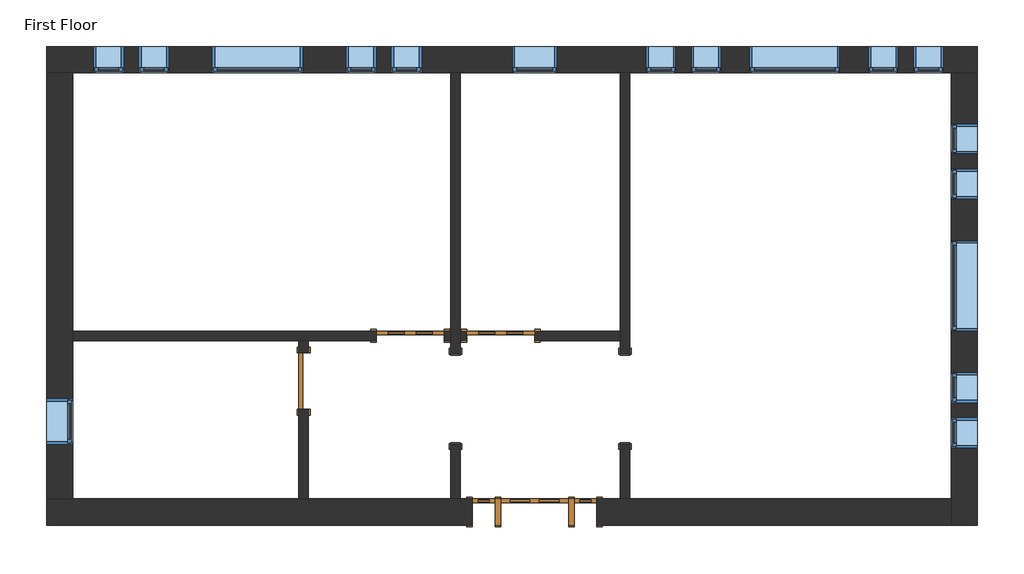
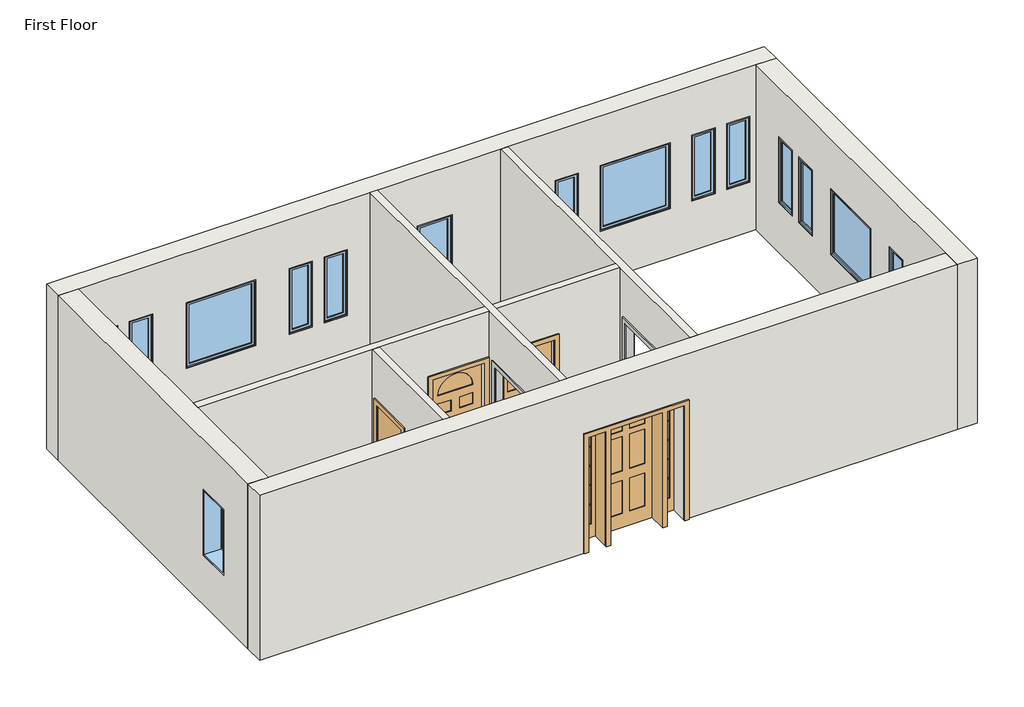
# One storey: 17 windows, 9 walls, 4 doors, 2 proxies.
"""IFC4 building model written with IfcOpenShell, lengths in millimetres."""

from ifc_helpers import new_model, si_unit, frame, origin, place, context, project, spatial, polyline, outline, extrude, faceted_brep, transform, mapped, element, save
from components import proxy_f44482cc, door_829da954, door_2e3b4da2, door_4d6c7550, door_dba5aa2e, window_da97879f, window_d61ef850, window_60baf983, window_6eb97611

model = new_model("IFC4")

# Units and contexts
model_context = context("Model", 3, world=origin())
ifc_project = project(units=[si_unit("LENGTHUNIT", "METRE", prefix="MILLI")], contexts=[model_context])

# Site, building, storey
site = spatial("IfcSite", under=ifc_project)
building = spatial("IfcBuilding", under=site)
storey = spatial("IfcBuildingStorey", under=building, Name="First Floor", Elevation=0.0)

# Proxies
placement = place(None, origin())
proxy_shape = proxy_f44482cc(model_context)
element("IfcBuildingElementProxy", 1, Name="Opening-Cased : 48\" x 84\"", ObjectType="Opening-Cased : 48\" x 84\"", at=placement, inside=storey, context=model_context, shape_type="MappedRepresentation", body=[
    mapped(proxy_shape, transform((-3773.4589563, 5882.4203434, 0.0), x_axis=(0.0, 1.0, 0.0), y_axis=(-1.0, 0.0, 0.0), z_axis=(0.0, 0.0, 1.0))),
])
element("IfcBuildingElementProxy", 2, Name="Opening-Cased : 48\" x 84\"", ObjectType="Opening-Cased : 48\" x 84\"", at=placement, inside=storey, context=model_context, shape_type="MappedRepresentation", body=[
    mapped(proxy_shape, transform((-6059.4589563, 5866.04303, 0.0), x_axis=(0.0, -1.0, 0.0), y_axis=(1.0, 0.0, 0.0), z_axis=(0.0, 0.0, 1.0))),
])

# Doors
door_shape = door_829da954(model_context)
element("IfcDoor", 3, ObjectType="Single-Decorative 2 : 36\" x 84\"", at=placement, inside=storey, context=model_context, shape_type="MappedRepresentation", body=[
    mapped(door_shape, transform((-5449.8589563, 6723.5441867, 0.0), x_axis=(-1.0, 0.0, 0.0), y_axis=(0.0, -1.0, 0.0), z_axis=(0.0, 0.0, 1.0))),
])
door_2_shape = door_2e3b4da2(model_context)
element("IfcDoor", 4, ObjectType="Single-Decorative 2 : 36\" x 84\"", at=placement, inside=storey, context=model_context, shape_type="MappedRepresentation", body=[
    mapped(door_2_shape, transform((-6669.0589563, 6723.5441867, 0.0), x_axis=(1.0, 0.0, 0.0), y_axis=(0.0, 1.0, 0.0), z_axis=(0.0, 0.0, 1.0))),
])
door_3_shape = door_4d6c7550(model_context)
element("IfcDoor", 5, ObjectType="Single-Flush : 30\" x 84\"", at=placement, inside=storey, context=model_context, shape_type="MappedRepresentation", body=[
    mapped(door_3_shape, transform((-8105.7464563, 6113.9441867, 0.0), x_axis=(0.0, 1.0, 0.0), y_axis=(-1.0, 0.0, 0.0), z_axis=(0.0, 0.0, 1.0))),
])
door_4_shape = door_dba5aa2e(model_context)
element("IfcDoor", 6, ObjectType="Single-Raised Panel with Sidelights : 36\" x 84\"", at=placement, inside=storey, context=model_context, shape_type="MappedRepresentation", body=[
    mapped(door_4_shape, transform((-4992.6589563, 4350.2316867, 0.0), x_axis=(-1.0, 0.0, 0.0), y_axis=(0.0, -1.0, 0.0), z_axis=(0.0, 0.0, 1.0))),
])

# Walls
element("IfcWall", 7, ObjectType="Exterior - Brick on Mtl. Stud", at=placement, inside=storey, context=model_context, shape_type="Brep", body=[
    faceted_brep([(-11569.6714563, 10270.0191867, 0.0), (-11217.2464563, 10270.0191867, 0.0), (-6122.9589563, 10270.0191867, 0.0), (-5995.9589563, 10270.0191867, 0.0), (-3836.9589563, 10270.0191867, 0.0), (-3709.9589563, 10270.0191867, 0.0), (622.3285437, 10270.0191867, 0.0), (974.7535437, 10270.0191867, 0.0), (974.7535437, 10270.0191867, 3048.0), (622.3285437, 10270.0191867, 3048.0), (-3709.9589563, 10270.0191867, 3048.0), (-3836.9589563, 10270.0191867, 3048.0), (-5995.9589563, 10270.0191867, 3048.0), (-6122.9589563, 10270.0191867, 3048.0), (-11217.2464563, 10270.0191867, 3048.0), (-11569.6714563, 10270.0191867, 3048.0), (-5297.4589563, 10270.0191867, 2133.6), (-4687.8589563, 10270.0191867, 2133.6), (-4687.8589563, 10270.0191867, 914.4), (-5297.4589563, 10270.0191867, 914.4), (-9336.0589563, 10270.0191867, 2133.6), (-8116.8589563, 10270.0191867, 2133.6), (-8116.8589563, 10270.0191867, 914.4), (-9336.0589563, 10270.0191867, 914.4), (-2097.0589563, 10270.0191867, 2133.6), (-877.8589563, 10270.0191867, 2133.6), (-877.8589563, 10270.0191867, 914.4), (-2097.0589563, 10270.0191867, 914.4), (-10936.2589563, 10270.0191867, 2133.6), (-10529.8589563, 10270.0191867, 2133.6), (-10529.8589563, 10270.0191867, 914.4), (-10936.2589563, 10270.0191867, 914.4), (-10326.6589563, 10270.0191867, 2133.6), (-9920.2589563, 10270.0191867, 2133.6), (-9920.2589563, 10270.0191867, 914.4), (-10326.6589563, 10270.0191867, 914.4), (-6516.6589563, 10270.0191867, 2133.6), (-6516.6589563, 10270.0191867, 914.4), (-6923.0589563, 10270.0191867, 914.4), (-6923.0589563, 10270.0191867, 2133.6), (-7126.2589563, 10270.0191867, 2133.6), (-7126.2589563, 10270.0191867, 914.4), (-7532.6589563, 10270.0191867, 914.4), (-7532.6589563, 10270.0191867, 2133.6), (-3494.0589563, 10270.0191867, 2133.6), (-3087.6589563, 10270.0191867, 2133.6), (-3087.6589563, 10270.0191867, 914.4), (-3494.0589563, 10270.0191867, 914.4), (-2884.4589563, 10270.0191867, 2133.6), (-2478.0589563, 10270.0191867, 2133.6), (-2478.0589563, 10270.0191867, 914.4), (-2884.4589563, 10270.0191867, 914.4), (519.1410437, 10270.0191867, 2133.6), (519.1410437, 10270.0191867, 914.4), (112.7410437, 10270.0191867, 914.4), (112.7410437, 10270.0191867, 2133.6), (-90.4589563, 10270.0191867, 2133.6), (-90.4589563, 10270.0191867, 914.4), (-496.8589563, 10270.0191867, 914.4), (-496.8589563, 10270.0191867, 2133.6), (-11569.6714563, 10622.4441867, 0.0), (-11569.6714563, 10622.4441867, 3048.0), (974.7535437, 10622.4441867, 3048.0), (974.7535437, 10622.4441867, 0.0), (-5297.4589563, 10622.4441867, 2133.6), (-5297.4589563, 10622.4441867, 914.4), (-4687.8589563, 10622.4441867, 914.4), (-4687.8589563, 10622.4441867, 2133.6), (-9336.0589563, 10622.4441867, 2133.6), (-9336.0589563, 10622.4441867, 914.4), (-8116.8589563, 10622.4441867, 914.4), (-8116.8589563, 10622.4441867, 2133.6), (-2097.0589563, 10622.4441867, 2133.6), (-2097.0589563, 10622.4441867, 914.4), (-877.8589563, 10622.4441867, 914.4), (-877.8589563, 10622.4441867, 2133.6), (-10936.2589563, 10622.4441867, 2133.6), (-10936.2589563, 10622.4441867, 914.4), (-10529.8589563, 10622.4441867, 914.4), (-10529.8589563, 10622.4441867, 2133.6), (-10326.6589563, 10622.4441867, 2133.6), (-10326.6589563, 10622.4441867, 914.4), (-9920.2589563, 10622.4441867, 914.4), (-9920.2589563, 10622.4441867, 2133.6), (-6516.6589563, 10622.4441867, 2133.6), (-6923.0589563, 10622.4441867, 2133.6), (-6923.0589563, 10622.4441867, 914.4), (-6516.6589563, 10622.4441867, 914.4), (-7126.2589563, 10622.4441867, 2133.6), (-7532.6589563, 10622.4441867, 2133.6), (-7532.6589563, 10622.4441867, 914.4), (-7126.2589563, 10622.4441867, 914.4), (-3494.0589563, 10622.4441867, 2133.6), (-3494.0589563, 10622.4441867, 914.4), (-3087.6589563, 10622.4441867, 914.4), (-3087.6589563, 10622.4441867, 2133.6), (-2884.4589563, 10622.4441867, 2133.6), (-2884.4589563, 10622.4441867, 914.4), (-2478.0589563, 10622.4441867, 914.4), (-2478.0589563, 10622.4441867, 2133.6), (519.1410437, 10622.4441867, 2133.6), (112.7410437, 10622.4441867, 2133.6), (112.7410437, 10622.4441867, 914.4), (519.1410437, 10622.4441867, 914.4), (-90.4589563, 10622.4441867, 2133.6), (-496.8589563, 10622.4441867, 2133.6), (-496.8589563, 10622.4441867, 914.4), (-90.4589563, 10622.4441867, 914.4)], [[[0, 1, 2, 3, 4, 5, 6, 7, 8, 9, 10, 11, 12, 13, 14, 15], [16, 17, 18, 19], [20, 21, 22, 23], [24, 25, 26, 27], [28, 29, 30, 31], [32, 33, 34, 35], [36, 37, 38, 39], [40, 41, 42, 43], [44, 45, 46, 47], [48, 49, 50, 51], [52, 53, 54, 55], [56, 57, 58, 59]], [[60, 61, 62, 63], [64, 65, 66, 67], [68, 69, 70, 71], [72, 73, 74, 75], [76, 77, 78, 79], [80, 81, 82, 83], [84, 85, 86, 87], [88, 89, 90, 91], [92, 93, 94, 95], [96, 97, 98, 99], [100, 101, 102, 103], [104, 105, 106, 107]], [[7, 6, 5, 4, 3, 2, 1, 0, 60, 63]], [[15, 14, 13, 12, 11, 10, 9, 8, 62, 61]], [[8, 7, 63, 62]], [[0, 15, 61, 60]], [[65, 64, 16, 19]], [[66, 65, 19, 18]], [[67, 66, 18, 17]], [[64, 67, 17, 16]], [[69, 68, 20, 23]], [[70, 69, 23, 22]], [[71, 70, 22, 21]], [[68, 71, 21, 20]], [[73, 72, 24, 27]], [[74, 73, 27, 26]], [[75, 74, 26, 25]], [[72, 75, 25, 24]], [[77, 76, 28, 31]], [[78, 77, 31, 30]], [[79, 78, 30, 29]], [[76, 79, 29, 28]], [[81, 80, 32, 35]], [[82, 81, 35, 34]], [[83, 82, 34, 33]], [[80, 83, 33, 32]], [[37, 36, 84, 87]], [[38, 37, 87, 86]], [[39, 38, 86, 85]], [[36, 39, 85, 84]], [[41, 40, 88, 91]], [[42, 41, 91, 90]], [[43, 42, 90, 89]], [[40, 43, 89, 88]], [[93, 92, 44, 47]], [[94, 93, 47, 46]], [[95, 94, 46, 45]], [[92, 95, 45, 44]], [[97, 96, 48, 51]], [[98, 97, 51, 50]], [[99, 98, 50, 49]], [[96, 99, 49, 48]], [[53, 52, 100, 103]], [[54, 53, 103, 102]], [[55, 54, 102, 101]], [[52, 55, 101, 100]], [[57, 56, 104, 107]], [[58, 57, 107, 106]], [[59, 58, 106, 105]], [[56, 59, 105, 104]]]),
])
element("IfcWall", 8, ObjectType="Exterior - Brick on Mtl. Stud", at=placement, inside=storey, context=model_context, shape_type="Brep", body=[
    faceted_brep([(622.3285437, 10270.0191867, 0.0), (622.3285437, 4526.4441867, 0.0), (622.3285437, 4174.0191867, 0.0), (622.3285437, 4174.0191867, 3048.0), (622.3285437, 4526.4441867, 3048.0), (622.3285437, 10270.0191867, 3048.0), (622.3285437, 8007.8316867, 2133.6), (622.3285437, 6788.6316867, 2133.6), (622.3285437, 6788.6316867, 914.4), (622.3285437, 8007.8316867, 914.4), (622.3285437, 9582.6316867, 2133.6), (622.3285437, 9176.2316867, 2133.6), (622.3285437, 9176.2316867, 914.4), (622.3285437, 9582.6316867, 914.4), (622.3285437, 8973.0316867, 2133.6), (622.3285437, 8566.6316867, 2133.6), (622.3285437, 8566.6316867, 914.4), (622.3285437, 8973.0316867, 914.4), (622.3285437, 5213.8316867, 2133.6), (622.3285437, 5213.8316867, 914.4), (622.3285437, 5620.2316867, 914.4), (622.3285437, 5620.2316867, 2133.6), (622.3285437, 5823.4316867, 2133.6), (622.3285437, 5823.4316867, 914.4), (622.3285437, 6229.8316867, 914.4), (622.3285437, 6229.8316867, 2133.6), (974.7535437, 10270.0191867, 0.0), (974.7535437, 10270.0191867, 3048.0), (974.7535437, 4174.0191867, 3048.0), (974.7535437, 4174.0191867, 0.0), (974.7535437, 8007.8316867, 2133.6), (974.7535437, 8007.8316867, 914.4), (974.7535437, 6788.6316867, 914.4), (974.7535437, 6788.6316867, 2133.6), (974.7535437, 9582.6316867, 2133.6), (974.7535437, 9582.6316867, 914.4), (974.7535437, 9176.2316867, 914.4), (974.7535437, 9176.2316867, 2133.6), (974.7535437, 8973.0316867, 2133.6), (974.7535437, 8973.0316867, 914.4), (974.7535437, 8566.6316867, 914.4), (974.7535437, 8566.6316867, 2133.6), (974.7535437, 5213.8316867, 2133.6), (974.7535437, 5620.2316867, 2133.6), (974.7535437, 5620.2316867, 914.4), (974.7535437, 5213.8316867, 914.4), (974.7535437, 5823.4316867, 2133.6), (974.7535437, 6229.8316867, 2133.6), (974.7535437, 6229.8316867, 914.4), (974.7535437, 5823.4316867, 914.4)], [[[0, 1, 2, 3, 4, 5], [6, 7, 8, 9], [10, 11, 12, 13], [14, 15, 16, 17], [18, 19, 20, 21], [22, 23, 24, 25]], [[26, 27, 28, 29], [30, 31, 32, 33], [34, 35, 36, 37], [38, 39, 40, 41], [42, 43, 44, 45], [46, 47, 48, 49]], [[2, 1, 0, 26, 29]], [[5, 4, 3, 28, 27]], [[3, 2, 29, 28]], [[0, 5, 27, 26]], [[31, 30, 6, 9]], [[32, 31, 9, 8]], [[33, 32, 8, 7]], [[30, 33, 7, 6]], [[35, 34, 10, 13]], [[36, 35, 13, 12]], [[37, 36, 12, 11]], [[34, 37, 11, 10]], [[39, 38, 14, 17]], [[40, 39, 17, 16]], [[41, 40, 16, 15]], [[38, 41, 15, 14]], [[19, 18, 42, 45]], [[20, 19, 45, 44]], [[21, 20, 44, 43]], [[18, 21, 43, 42]], [[23, 22, 46, 49]], [[24, 23, 49, 48]], [[25, 24, 48, 47]], [[22, 25, 47, 46]]]),
])
element("IfcWall", 9, ObjectType="Exterior - Brick on Mtl. Stud", at=placement, inside=storey, context=model_context, shape_type="Brep", body=[
    faceted_brep([(-5830.8589563, 4526.4441867, 2133.6), (-5830.8589563, 4526.4441867, 0.0), (-5995.9589563, 4526.4441867, 0.0), (-6122.9589563, 4526.4441867, 0.0), (-8042.2464563, 4526.4441867, 0.0), (-8169.2464563, 4526.4441867, 0.0), (-11217.2464563, 4526.4441867, 0.0), (-11569.6714563, 4526.4441867, 0.0), (-11569.6714563, 4526.4441867, 3048.0), (-11217.2464563, 4526.4441867, 3048.0), (-8169.2464563, 4526.4441867, 3048.0), (-8042.2464563, 4526.4441867, 3048.0), (-6122.9589563, 4526.4441867, 3048.0), (-5995.9589563, 4526.4441867, 3048.0), (-3836.9589563, 4526.4441867, 3048.0), (-3709.9589563, 4526.4441867, 3048.0), (622.3285437, 4526.4441867, 3048.0), (622.3285437, 4526.4441867, 0.0), (-3709.9589563, 4526.4441867, 0.0), (-3836.9589563, 4526.4441867, 0.0), (-4154.4589563, 4526.4441867, 0.0), (-4154.4589563, 4526.4441867, 2133.6), (-11569.6714563, 4174.0191867, 0.0), (-5830.8589563, 4174.0191867, 0.0), (-5830.8589563, 4174.0191867, 2133.6), (-4154.4589563, 4174.0191867, 2133.6), (-4154.4589563, 4174.0191867, 0.0), (622.3285437, 4174.0191867, 0.0), (622.3285437, 4174.0191867, 3048.0), (-11569.6714563, 4174.0191867, 3048.0)], [[[0, 1, 2, 3, 4, 5, 6, 7, 8, 9, 10, 11, 12, 13, 14, 15, 16, 17, 18, 19, 20, 21]], [[22, 23, 24, 25, 26, 27, 28, 29]], [[7, 6, 5, 4, 3, 2, 1, 23, 22]], [[20, 19, 18, 17, 27, 26]], [[16, 15, 14, 13, 12, 11, 10, 9, 8, 29, 28]], [[8, 7, 22, 29]], [[17, 16, 28, 27]], [[24, 23, 1, 0]], [[25, 24, 0, 21]], [[26, 25, 21, 20]]]),
])
element("IfcWall", 10, ObjectType="Exterior - Brick on Mtl. Stud", at=placement, inside=storey, context=model_context, shape_type="Brep", body=[
    faceted_brep([(-11217.2464563, 4526.4441867, 0.0), (-11217.2464563, 6660.0441867, 0.0), (-11217.2464563, 6787.0441867, 0.0), (-11217.2464563, 10270.0191867, 0.0), (-11217.2464563, 10270.0191867, 3048.0), (-11217.2464563, 6787.0441867, 3048.0), (-11217.2464563, 6660.0441867, 3048.0), (-11217.2464563, 4526.4441867, 3048.0), (-11217.2464563, 5264.6316867, 2133.6), (-11217.2464563, 5874.2316867, 2133.6), (-11217.2464563, 5874.2316867, 914.4), (-11217.2464563, 5264.6316867, 914.4), (-11569.6714563, 4526.4441867, 0.0), (-11569.6714563, 4526.4441867, 3048.0), (-11569.6714563, 10270.0191867, 3048.0), (-11569.6714563, 10270.0191867, 0.0), (-11569.6714563, 5264.6316867, 2133.6), (-11569.6714563, 5264.6316867, 914.4), (-11569.6714563, 5874.2316867, 914.4), (-11569.6714563, 5874.2316867, 2133.6)], [[[0, 1, 2, 3, 4, 5, 6, 7], [8, 9, 10, 11]], [[12, 13, 14, 15], [16, 17, 18, 19]], [[3, 2, 1, 0, 12, 15]], [[7, 6, 5, 4, 14, 13]], [[0, 7, 13, 12]], [[4, 3, 15, 14]], [[17, 16, 8, 11]], [[18, 17, 11, 10]], [[19, 18, 10, 9]], [[16, 19, 9, 8]]]),
])
element("IfcWall", 11, ObjectType="Interior - 5\" Partition (2-hr)", at=placement, inside=storey, context=model_context, shape_type="Brep", body=[
    faceted_brep([(-3836.9589563, 10270.0191867, 0.0), (-3836.9589563, 6787.0441867, 0.0), (-3836.9589563, 6660.0441867, 0.0), (-3836.9589563, 6483.8316867, 0.0), (-3836.9589563, 6483.8316867, 2133.6), (-3836.9589563, 5264.6316867, 2133.6), (-3836.9589563, 5264.6316867, 0.0), (-3836.9589563, 4526.4441867, 0.0), (-3836.9589563, 4526.4441867, 3048.0), (-3836.9589563, 6660.0441867, 3048.0), (-3836.9589563, 6787.0441867, 3048.0), (-3836.9589563, 10270.0191867, 3048.0), (-3709.9589563, 6483.8316867, 2133.6), (-3709.9589563, 6483.8316867, 0.0), (-3709.9589563, 10270.0191867, 0.0), (-3709.9589563, 10270.0191867, 3048.0), (-3709.9589563, 4526.4441867, 3048.0), (-3709.9589563, 4526.4441867, 0.0), (-3709.9589563, 5264.6316867, 0.0), (-3709.9589563, 5264.6316867, 2133.6)], [[[0, 1, 2, 3, 4, 5, 6, 7, 8, 9, 10, 11]], [[12, 13, 14, 15, 16, 17, 18, 19]], [[14, 13, 3, 2, 1, 0]], [[18, 17, 7, 6]], [[11, 10, 9, 8, 16, 15]], [[0, 11, 15, 14]], [[8, 7, 17, 16]], [[6, 5, 19, 18]], [[4, 3, 13, 12]], [[5, 4, 12, 19]]]),
])
element("IfcWall", 12, ObjectType="Interior - 5\" Partition (2-hr)", at=placement, inside=storey, context=model_context, shape_type="Brep", body=[
    faceted_brep([(-6122.9589563, 5264.6316867, 2133.6), (-6122.9589563, 5264.6316867, 0.0), (-6122.9589563, 4526.4441867, 0.0), (-6122.9589563, 4526.4441867, 3048.0), (-6122.9589563, 6660.0441867, 3048.0), (-6122.9589563, 6787.0441867, 3048.0), (-6122.9589563, 10270.0191867, 3048.0), (-6122.9589563, 10270.0191867, 0.0), (-6122.9589563, 6787.0441867, 0.0), (-6122.9589563, 6660.0441867, 0.0), (-6122.9589563, 6483.8316867, 0.0), (-6122.9589563, 6483.8316867, 2133.6), (-5995.9589563, 4526.4441867, 0.0), (-5995.9589563, 5264.6316867, 0.0), (-5995.9589563, 5264.6316867, 2133.6), (-5995.9589563, 6483.8316867, 2133.6), (-5995.9589563, 6483.8316867, 0.0), (-5995.9589563, 6660.0441867, 0.0), (-5995.9589563, 6787.0441867, 0.0), (-5995.9589563, 10270.0191867, 0.0), (-5995.9589563, 10270.0191867, 3048.0), (-5995.9589563, 6787.0441867, 3048.0), (-5995.9589563, 6660.0441867, 3048.0), (-5995.9589563, 4526.4441867, 3048.0)], [[[0, 1, 2, 3, 4, 5, 6, 7, 8, 9, 10, 11]], [[12, 13, 14, 15, 16, 17, 18, 19, 20, 21, 22, 23]], [[2, 1, 13, 12]], [[10, 9, 8, 7, 19, 18, 17, 16]], [[6, 5, 4, 3, 23, 22, 21, 20]], [[7, 6, 20, 19]], [[3, 2, 12, 23]], [[16, 15, 11, 10]], [[14, 13, 1, 0]], [[15, 14, 0, 11]]]),
])
element("IfcWall", 13, ObjectType="Interior - 5\" Partition (2-hr)", at=placement, inside=storey, context=model_context, shape_type="Brep", body=[
    faceted_brep([(-6211.8589563, 6660.0441867, 2133.6), (-6211.8589563, 6660.0441867, 0.0), (-6122.9589563, 6660.0441867, 0.0), (-6122.9589563, 6660.0441867, 3048.0), (-8042.2464563, 6660.0441867, 3048.0), (-8169.2464563, 6660.0441867, 3048.0), (-11217.2464563, 6660.0441867, 3048.0), (-11217.2464563, 6660.0441867, 0.0), (-8169.2464563, 6660.0441867, 0.0), (-8042.2464563, 6660.0441867, 0.0), (-7126.2589563, 6660.0441867, 0.0), (-7126.2589563, 6660.0441867, 2133.6), (-6122.9589563, 6787.0441867, 0.0), (-6211.8589563, 6787.0441867, 0.0), (-6211.8589563, 6787.0441867, 2133.6), (-7126.2589563, 6787.0441867, 2133.6), (-7126.2589563, 6787.0441867, 0.0), (-11217.2464563, 6787.0441867, 0.0), (-11217.2464563, 6787.0441867, 3048.0), (-6122.9589563, 6787.0441867, 3048.0)], [[[0, 1, 2, 3, 4, 5, 6, 7, 8, 9, 10, 11]], [[12, 13, 14, 15, 16, 17, 18, 19]], [[2, 1, 13, 12]], [[10, 9, 8, 7, 17, 16]], [[6, 5, 4, 3, 19, 18]], [[7, 6, 18, 17]], [[3, 2, 12, 19]], [[14, 13, 1, 0]], [[15, 14, 0, 11]], [[16, 15, 11, 10]]]),
])
element("IfcWall", 14, ObjectType="Interior - 5\" Partition (2-hr)", at=placement, inside=storey, context=model_context, shape_type="SweptSolid", body=[
    extrude(outline(polyline([(6660.0441867, 0.0), (6494.9441867, 0.0), (6494.9441867, 2133.6), (5732.9441867, 2133.6), (5732.9441867, 0.0), (4526.4441867, 0.0), (4526.4441867, 3048.0), (6660.0441867, 3048.0), (6660.0441867, 0.0)])), frame((-8169.2464563, 0.0, 0.0), z_axis=(1.0, 0.0, 0.0), x_axis=(0.0, 1.0, 0.0)), (0.0, 0.0, 1.0), 127.0),
])
element("IfcWall", 15, ObjectType="Interior - 5\" Partition (2-hr)", at=placement, inside=storey, context=model_context, shape_type="SweptSolid", body=[
    extrude(outline(polyline([(0.0, -5995.9589563), (0.0, -5907.0589563), (2133.6, -5907.0589563), (2133.6, -4992.6589563), (0.0, -4992.6589563), (0.0, -3836.9589563), (3048.0, -3836.9589563), (3048.0, -5995.9589563), (0.0, -5995.9589563)])), frame((0.0, 6660.0441867, 0.0), z_axis=(0.0, 1.0, 0.0), x_axis=(0.0, 0.0, 1.0)), (0.0, 0.0, 1.0), 127.0),
])

# Windows
window_shape = window_da97879f(model_context)
element("IfcWindow", 16, ObjectType="Fixed : 16\" x 48\"", at=placement, inside=storey, context=model_context, shape_type="MappedRepresentation", body=[
    mapped(window_shape, transform((-10771.1589563, 10446.2316867, 0.0), x_axis=(-1.0, 0.0, 0.0), y_axis=(0.0, -1.0, 0.0), z_axis=(0.0, 0.0, 1.0))),
])
element("IfcWindow", 17, ObjectType="Fixed : 16\" x 48\"", at=placement, inside=storey, context=model_context, shape_type="MappedRepresentation", body=[
    mapped(window_shape, transform((-10161.5589563, 10446.2316867, 0.0), x_axis=(-1.0, 0.0, 0.0), y_axis=(0.0, -1.0, 0.0), z_axis=(0.0, 0.0, 1.0))),
])
element("IfcWindow", 18, ObjectType="Fixed : 16\" x 48\"", at=placement, inside=storey, context=model_context, shape_type="MappedRepresentation", body=[
    mapped(window_shape, transform((-3328.9589563, 10446.2316867, 0.0), x_axis=(-1.0, 0.0, 0.0), y_axis=(0.0, -1.0, 0.0), z_axis=(0.0, 0.0, 1.0))),
])
element("IfcWindow", 19, ObjectType="Fixed : 16\" x 48\"", at=placement, inside=storey, context=model_context, shape_type="MappedRepresentation", body=[
    mapped(window_shape, transform((-2719.3589563, 10446.2316867, 0.0), x_axis=(-1.0, 0.0, 0.0), y_axis=(0.0, -1.0, 0.0), z_axis=(0.0, 0.0, 1.0))),
])
element("IfcWindow", 20, ObjectType="Fixed : 16\" x 48\"", at=placement, inside=storey, context=model_context, shape_type="MappedRepresentation", body=[
    mapped(window_shape, transform((798.5410437, 9417.5316867, 0.0), x_axis=(0.0, 1.0, 0.0), y_axis=(-1.0, 0.0, 0.0), z_axis=(0.0, 0.0, 1.0))),
])
element("IfcWindow", 21, ObjectType="Fixed : 16\" x 48\"", at=placement, inside=storey, context=model_context, shape_type="MappedRepresentation", body=[
    mapped(window_shape, transform((798.5410437, 8807.9316867, 0.0), x_axis=(0.0, 1.0, 0.0), y_axis=(-1.0, 0.0, 0.0), z_axis=(0.0, 0.0, 1.0))),
])
window_2_shape = window_d61ef850(model_context)
element("IfcWindow", 22, ObjectType="Fixed : 16\" x 48\"", at=placement, inside=storey, context=model_context, shape_type="MappedRepresentation", body=[
    mapped(window_2_shape, transform((-6681.7589563, 10446.2316867, 0.0), x_axis=(1.0, 0.0, 0.0), y_axis=(0.0, 1.0, 0.0), z_axis=(0.0, 0.0, 1.0))),
])
element("IfcWindow", 23, ObjectType="Fixed : 16\" x 48\"", at=placement, inside=storey, context=model_context, shape_type="MappedRepresentation", body=[
    mapped(window_2_shape, transform((-7291.3589563, 10446.2316867, 0.0), x_axis=(1.0, 0.0, 0.0), y_axis=(0.0, 1.0, 0.0), z_axis=(0.0, 0.0, 1.0))),
])
element("IfcWindow", 24, ObjectType="Fixed : 16\" x 48\"", at=placement, inside=storey, context=model_context, shape_type="MappedRepresentation", body=[
    mapped(window_2_shape, transform((354.0410437, 10446.2316867, 0.0), x_axis=(1.0, 0.0, 0.0), y_axis=(0.0, 1.0, 0.0), z_axis=(0.0, 0.0, 1.0))),
])
element("IfcWindow", 25, ObjectType="Fixed : 16\" x 48\"", at=placement, inside=storey, context=model_context, shape_type="MappedRepresentation", body=[
    mapped(window_2_shape, transform((-255.5589563, 10446.2316867, 0.0), x_axis=(1.0, 0.0, 0.0), y_axis=(0.0, 1.0, 0.0), z_axis=(0.0, 0.0, 1.0))),
])
element("IfcWindow", 26, ObjectType="Fixed : 16\" x 48\"", at=placement, inside=storey, context=model_context, shape_type="MappedRepresentation", body=[
    mapped(window_2_shape, transform((798.5410437, 5378.9316867, 0.0), x_axis=(0.0, -1.0, 0.0), y_axis=(1.0, 0.0, 0.0), z_axis=(0.0, 0.0, 1.0))),
])
element("IfcWindow", 27, ObjectType="Fixed : 16\" x 48\"", at=placement, inside=storey, context=model_context, shape_type="MappedRepresentation", body=[
    mapped(window_2_shape, transform((798.5410437, 5988.5316867, 0.0), x_axis=(0.0, -1.0, 0.0), y_axis=(1.0, 0.0, 0.0), z_axis=(0.0, 0.0, 1.0))),
])
window_3_shape = window_60baf983(model_context)
element("IfcWindow", 28, ObjectType="Fixed : 24\" x 48\"", at=placement, inside=storey, context=model_context, shape_type="MappedRepresentation", body=[
    mapped(window_3_shape, transform((-5030.7589563, 10446.2316867, 0.0), x_axis=(-1.0, 0.0, 0.0), y_axis=(0.0, -1.0, 0.0), z_axis=(0.0, 0.0, 1.0))),
])
element("IfcWindow", 29, ObjectType="Fixed : 24\" x 48\"", at=placement, inside=storey, context=model_context, shape_type="MappedRepresentation", body=[
    mapped(window_3_shape, transform((-11393.4589563, 5531.3316867, 0.0), x_axis=(0.0, -1.0, 0.0), y_axis=(1.0, 0.0, 0.0), z_axis=(0.0, 0.0, 1.0))),
])
window_4_shape = window_6eb97611(model_context)
element("IfcWindow", 30, ObjectType="Fixed : 48\" x 48\"", at=placement, inside=storey, context=model_context, shape_type="MappedRepresentation", body=[
    mapped(window_4_shape, transform((-8764.5589563, 10446.2316867, 0.0), x_axis=(-1.0, 0.0, 0.0), y_axis=(0.0, -1.0, 0.0), z_axis=(0.0, 0.0, 1.0))),
])
element("IfcWindow", 31, ObjectType="Fixed : 48\" x 48\"", at=placement, inside=storey, context=model_context, shape_type="MappedRepresentation", body=[
    mapped(window_4_shape, transform((-1525.5589563, 10446.2316867, 0.0), x_axis=(-1.0, 0.0, 0.0), y_axis=(0.0, -1.0, 0.0), z_axis=(0.0, 0.0, 1.0))),
])
element("IfcWindow", 32, ObjectType="Fixed : 48\" x 48\"", at=placement, inside=storey, context=model_context, shape_type="MappedRepresentation", body=[
    mapped(window_4_shape, transform((798.5410437, 7436.3316867, 0.0), x_axis=(0.0, 1.0, 0.0), y_axis=(-1.0, 0.0, 0.0), z_axis=(0.0, 0.0, 1.0))),
])

save(model, "model.ifc")
